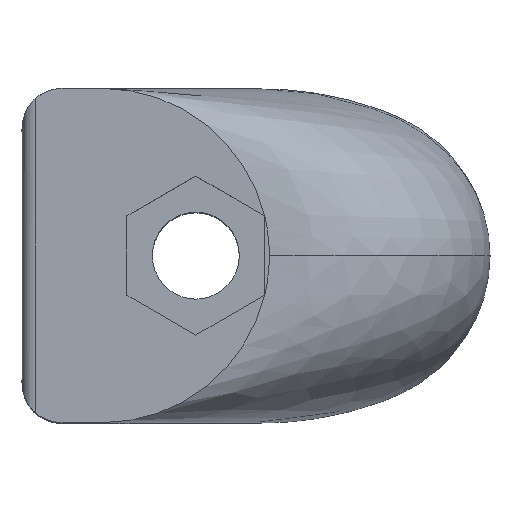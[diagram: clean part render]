
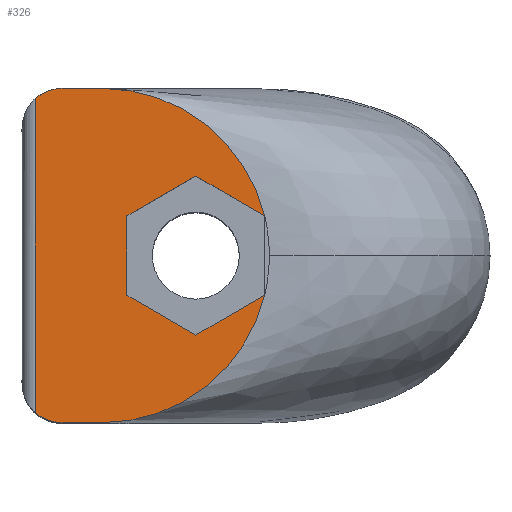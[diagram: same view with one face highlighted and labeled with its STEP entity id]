
A CAD part, top view. The second image highlights one B-rep face of the part: STEP entity #326.
In plain terms, the highlighted planar face has unit normal (0, 0, 1) as drawn and (0, 0, -1) by its records, which use the part's own axes.
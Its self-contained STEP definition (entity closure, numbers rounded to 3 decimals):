
#20 = VERTEX_POINT ( 'NONE', #165 ) ;
#26 = VERTEX_POINT ( 'NONE', #250 ) ;
#33 = VERTEX_POINT ( 'NONE', #64 ) ;
#39 = ORIENTED_EDGE ( 'NONE', *, *, #849, .F. ) ;
#45 = EDGE_CURVE ( 'NONE', #206, #1344, #476, .T. ) ;
#48 = EDGE_CURVE ( 'NONE', #264, #26, #1173, .T. ) ;
#61 = DIRECTION ( 'NONE',  ( 0.866, 0.5, 0. ) ) ;
#64 = CARTESIAN_POINT ( 'NONE',  ( -7., 12.5, -20.15 ) ) ;
#71 = DIRECTION ( 'NONE',  ( 0., 0., 1. ) ) ;
#75 = LINE ( 'NONE', #163, #552 ) ;
#84 = DIRECTION ( 'NONE',  ( 0., 0., 1. ) ) ;
#92 = CARTESIAN_POINT ( 'NONE',  ( -10., 12.5, -20.15 ) ) ;
#109 = ORIENTED_EDGE ( 'NONE', *, *, #1253, .F. ) ;
#110 = VECTOR ( 'NONE', #1018, 1000. ) ;
#111 = DIRECTION ( 'NONE',  ( -0.866, -0.5, 0. ) ) ;
#138 = CARTESIAN_POINT ( 'NONE',  ( -12., 0., -20.15 ) ) ;
#146 = EDGE_CURVE ( 'NONE', #354, #1289, #427, .T. ) ;
#158 = DIRECTION ( 'NONE',  ( 0., 1., 0. ) ) ;
#163 = CARTESIAN_POINT ( 'NONE',  ( -5.15, 2.973, -20.15 ) ) ;
#165 = CARTESIAN_POINT ( 'NONE',  ( -10., -12.5, -20.15 ) ) ;
#176 = CARTESIAN_POINT ( 'NONE',  ( -10., 9.5, -20.15 ) ) ;
#183 = CARTESIAN_POINT ( 'NONE',  ( 0., -5.947, -20.15 ) ) ;
#188 = VECTOR ( 'NONE', #341, 1000. ) ;
#192 = DIRECTION ( 'NONE',  ( -1., 0., 0. ) ) ;
#206 = VERTEX_POINT ( 'NONE', #795 ) ;
#207 = LINE ( 'NONE', #512, #1270 ) ;
#209 = DIRECTION ( 'NONE',  ( 0., 0., -1. ) ) ;
#236 = CARTESIAN_POINT ( 'NONE',  ( -5.15, -2.973, -20.15 ) ) ;
#250 = CARTESIAN_POINT ( 'NONE',  ( -5.15, 2.973, -20.15 ) ) ;
#251 = AXIS2_PLACEMENT_3D ( 'NONE', #1207, #84, #1237 ) ;
#260 = LINE ( 'NONE', #1310, #312 ) ;
#264 = VERTEX_POINT ( 'NONE', #497 ) ;
#287 = EDGE_CURVE ( 'NONE', #1344, #995, #489, .T. ) ;
#292 = LINE ( 'NONE', #772, #908 ) ;
#295 = LINE ( 'NONE', #944, #1220 ) ;
#300 = DIRECTION ( 'NONE',  ( 0., 0., -1. ) ) ;
#312 = VECTOR ( 'NONE', #669, 1000. ) ;
#326 = ADVANCED_FACE ( 'NONE', ( #905 ), #1324, .T. ) ;
#341 = DIRECTION ( 'NONE',  ( 0., 1., 0. ) ) ;
#354 = VERTEX_POINT ( 'NONE', #1327 ) ;
#363 = ORIENTED_EDGE ( 'NONE', *, *, #912, .T. ) ;
#375 = CIRCLE ( 'NONE', #655, 12.5 ) ;
#377 = ORIENTED_EDGE ( 'NONE', *, *, #48, .F. ) ;
#385 = CARTESIAN_POINT ( 'NONE',  ( 5.146, -2.962, -20.15 ) ) ;
#403 = EDGE_CURVE ( 'NONE', #26, #545, #75, .T. ) ;
#427 = CIRCLE ( 'NONE', #251, 12.5 ) ;
#460 = ORIENTED_EDGE ( 'NONE', *, *, #403, .F. ) ;
#476 = LINE ( 'NONE', #138, #188 ) ;
#485 = EDGE_CURVE ( 'NONE', #20, #354, #292, .T. ) ;
#489 = CIRCLE ( 'NONE', #659, 3. ) ;
#497 = CARTESIAN_POINT ( 'NONE',  ( -5.15, -2.973, -20.15 ) ) ;
#512 = CARTESIAN_POINT ( 'NONE',  ( 5.15, -2.973, -20.15 ) ) ;
#545 = VERTEX_POINT ( 'NONE', #699 ) ;
#552 = VECTOR ( 'NONE', #61, 1000. ) ;
#592 = CARTESIAN_POINT ( 'NONE',  ( 0., -5.947, -20.15 ) ) ;
#655 = AXIS2_PLACEMENT_3D ( 'NONE', #1325, #71, #906 ) ;
#659 = AXIS2_PLACEMENT_3D ( 'NONE', #176, #300, #1030 ) ;
#663 = EDGE_CURVE ( 'NONE', #1289, #823, #207, .T. ) ;
#669 = DIRECTION ( 'NONE',  ( -1., 0., 0. ) ) ;
#699 = CARTESIAN_POINT ( 'NONE',  ( 0., 5.947, -20.15 ) ) ;
#705 = ORIENTED_EDGE ( 'NONE', *, *, #993, .F. ) ;
#717 = EDGE_LOOP ( 'NONE', ( #363, #1161, #1167, #109, #782, #705, #460, #377, #39, #1150, #800, #1258 ) ) ;
#720 = CARTESIAN_POINT ( 'NONE',  ( 5.148, 2.966, -20.15 ) ) ;
#772 = CARTESIAN_POINT ( 'NONE',  ( -13., -12.5, -20.15 ) ) ;
#776 = EDGE_CURVE ( 'NONE', #851, #33, #375, .T. ) ;
#782 = ORIENTED_EDGE ( 'NONE', *, *, #776, .F. ) ;
#795 = CARTESIAN_POINT ( 'NONE',  ( -12., -11.736, -20.15 ) ) ;
#796 = CARTESIAN_POINT ( 'NONE',  ( -10., -9.5, -20.15 ) ) ;
#800 = ORIENTED_EDGE ( 'NONE', *, *, #146, .F. ) ;
#818 = CARTESIAN_POINT ( 'NONE',  ( -7., 0., -20.15 ) ) ;
#823 = VERTEX_POINT ( 'NONE', #183 ) ;
#831 = AXIS2_PLACEMENT_3D ( 'NONE', #818, #929, #1343 ) ;
#849 = EDGE_CURVE ( 'NONE', #823, #264, #1225, .T. ) ;
#851 = VERTEX_POINT ( 'NONE', #720 ) ;
#865 = CIRCLE ( 'NONE', #1282, 3. ) ;
#905 = FACE_OUTER_BOUND ( 'NONE', #717, .T. ) ;
#906 = DIRECTION ( 'NONE',  ( -1., 0., 0. ) ) ;
#908 = VECTOR ( 'NONE', #911, 1000. ) ;
#911 = DIRECTION ( 'NONE',  ( 1., 0., 0. ) ) ;
#912 = EDGE_CURVE ( 'NONE', #20, #206, #865, .T. ) ;
#929 = DIRECTION ( 'NONE',  ( 0., 0., -1. ) ) ;
#944 = CARTESIAN_POINT ( 'NONE',  ( 0., 5.947, -20.15 ) ) ;
#993 = EDGE_CURVE ( 'NONE', #545, #851, #295, .T. ) ;
#995 = VERTEX_POINT ( 'NONE', #92 ) ;
#1015 = VECTOR ( 'NONE', #158, 1000. ) ;
#1018 = DIRECTION ( 'NONE',  ( -0.866, 0.5, 0. ) ) ;
#1030 = DIRECTION ( 'NONE',  ( -1., 0., 0. ) ) ;
#1092 = CARTESIAN_POINT ( 'NONE',  ( -12., 11.736, -20.15 ) ) ;
#1124 = DIRECTION ( 'NONE',  ( 0.866, -0.5, 0. ) ) ;
#1150 = ORIENTED_EDGE ( 'NONE', *, *, #663, .F. ) ;
#1161 = ORIENTED_EDGE ( 'NONE', *, *, #45, .T. ) ;
#1167 = ORIENTED_EDGE ( 'NONE', *, *, #287, .T. ) ;
#1173 = LINE ( 'NONE', #236, #1015 ) ;
#1207 = CARTESIAN_POINT ( 'NONE',  ( -7., 0., -20.15 ) ) ;
#1220 = VECTOR ( 'NONE', #1124, 1000. ) ;
#1225 = LINE ( 'NONE', #592, #110 ) ;
#1237 = DIRECTION ( 'NONE',  ( -1., 0., 0. ) ) ;
#1253 = EDGE_CURVE ( 'NONE', #33, #995, #260, .T. ) ;
#1258 = ORIENTED_EDGE ( 'NONE', *, *, #485, .F. ) ;
#1270 = VECTOR ( 'NONE', #111, 1000. ) ;
#1282 = AXIS2_PLACEMENT_3D ( 'NONE', #796, #209, #192 ) ;
#1289 = VERTEX_POINT ( 'NONE', #385 ) ;
#1310 = CARTESIAN_POINT ( 'NONE',  ( -13., 12.5, -20.15 ) ) ;
#1324 = PLANE ( 'NONE',  #831 ) ;
#1325 = CARTESIAN_POINT ( 'NONE',  ( -7., 0., -20.15 ) ) ;
#1327 = CARTESIAN_POINT ( 'NONE',  ( -7., -12.5, -20.15 ) ) ;
#1343 = DIRECTION ( 'NONE',  ( -1., 0., 0. ) ) ;
#1344 = VERTEX_POINT ( 'NONE', #1092 ) ;
